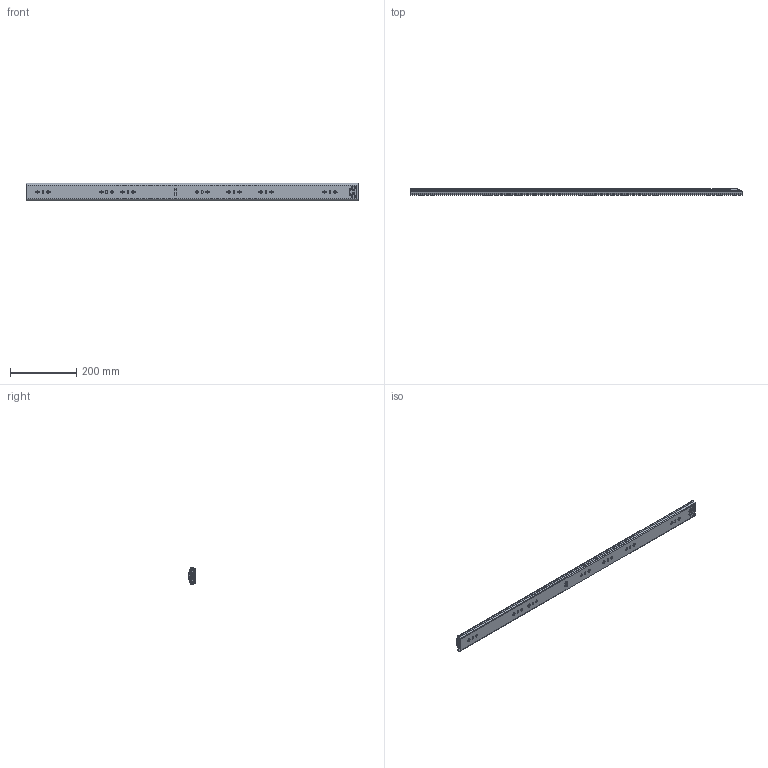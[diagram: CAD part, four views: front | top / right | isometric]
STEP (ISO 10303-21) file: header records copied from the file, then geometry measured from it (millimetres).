
FILE_DESCRIPTION((''),'2;1');
FILE_NAME('1053-02-40_ASM','2022-08-16T',('jishu015'),(''),'PRO/ENGINEER BY PARAMETRIC TECHNOLOGY CORPORATION, 2010280','PRO/ENGINEER BY PARAMETRIC TECHNOLOGY CORPORATION, 2010280','');
FILE_SCHEMA(('CONFIG_CONTROL_DESIGN'));
Products named in the file (16): 1053-02-40WAIKE; 1053WEIJIAO______; 53-WAIKEJIAO-40; 1053-02-40WAIKE_ASM; 1053ZHUTIAO-175______; 53-5-6GANZHU______; 1053ZHUTIAO-175MM_______ASM; 1053-02-18ZHONGGUI______; 53ZHIDIJIAO______; 1053-02-18ZHONGGUI_______ASM; 1053XIAOZHUJIA-14GE______; 1053XIAOZHUJIA-14GE_______ASM; 1053-02-18NEIGUI______; 53BACHA_____; 1053-02-18NEIGUI_______ASM; 1053-02-40_ASM
Assembly tree (109 placements, depth 3):
  1053-02-40_ASM
    1053-02-40WAIKE_ASM
      1053-02-40WAIKE
      1053WEIJIAO______
      53-WAIKEJIAO-40
    1053ZHUTIAO-175MM_______ASM  x2
      1053ZHUTIAO-175______
      53-5-6GANZHU______
    1053-02-18ZHONGGUI_______ASM
      1053-02-18ZHONGGUI______
      53ZHIDIJIAO______
    1053XIAOZHUJIA-14GE_______ASM
      1053XIAOZHUJIA-14GE______
      53-5-6GANZHU______  x76
    1053-02-18NEIGUI_______ASM
      1053-02-18NEIGUI______
      53BACHA_____
Bounding box: 1000 x 18.7 x 53 mm (x, y, z)
Volume: 380903.2 mm3; surface area: 439597.1 mm2
Topology: 122 solids, 128 shells, 2995 faces, 8698 edges, 5411 vertices
Faces by surface type: cylinder 1330, plane 1152, sphere 242, cone 124, bspline 113, torus 34
Entity records: 95162 total; most frequent: CARTESIAN_POINT 22971, ORIENTED_EDGE 15196, DIRECTION 15022, EDGE_CURVE 7670, AXIS2_PLACEMENT_3D 5260, VERTEX_POINT 4957, VECTOR 4502, LINE 4502
